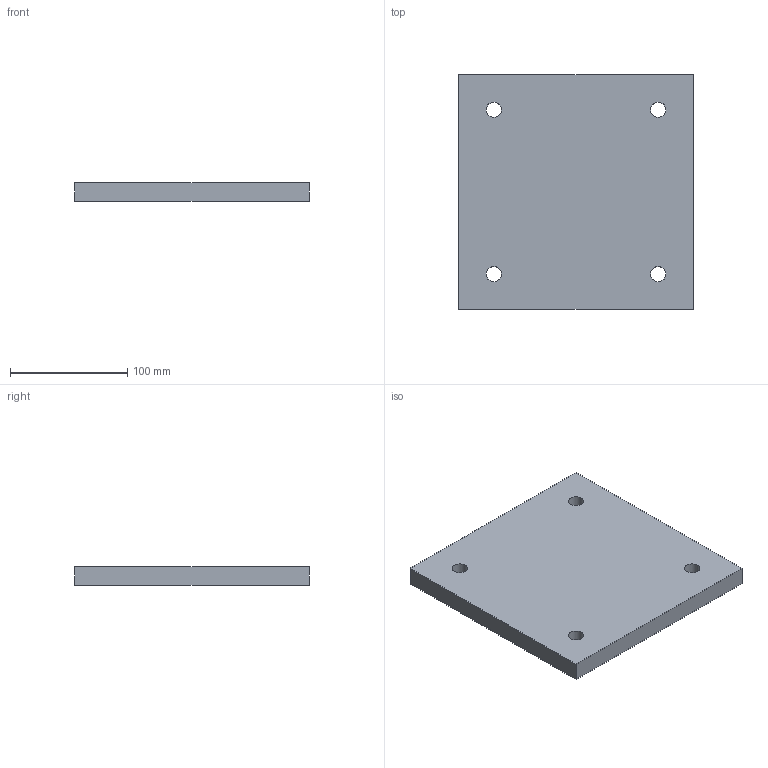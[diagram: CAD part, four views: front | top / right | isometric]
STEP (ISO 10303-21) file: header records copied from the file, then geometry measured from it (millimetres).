
FILE_DESCRIPTION(('Open CASCADE Model'),'2;1');
FILE_NAME('Open CASCADE Shape Model','2026-10-19T10:09:20',('Author'),( 'Open CASCADE'),'Open CASCADE STEP processor 8.0','Open CASCADE 8.0' ,'Unknown');
FILE_SCHEMA(('AUTOMOTIVE_DESIGN { 1 0 10303 214 1 1 1 1 }'));
Length unit declared in the file: millimetre
Products named in the file (1): CORTE_BASE_200x200x16_P05 66
Bounding box: 200 x 200 x 16 mm (x, y, z)
Volume: 631505.1 mm3; surface area: 94351.9 mm2
Topology: 1 solids, 1 shells, 10 faces, 24 edges, 16 vertices
Faces by surface type: plane 6, cylinder 4
Full cylindrical faces by diameter (mm): 13 x4
Entity records: 658 total; most frequent: CARTESIAN_POINT 147, DIRECTION 94, LINE 56, VECTOR 56, ORIENTED_EDGE 48, PCURVE 48, DEFINITIONAL_REPRESENTATION 48, EDGE_CURVE 24
